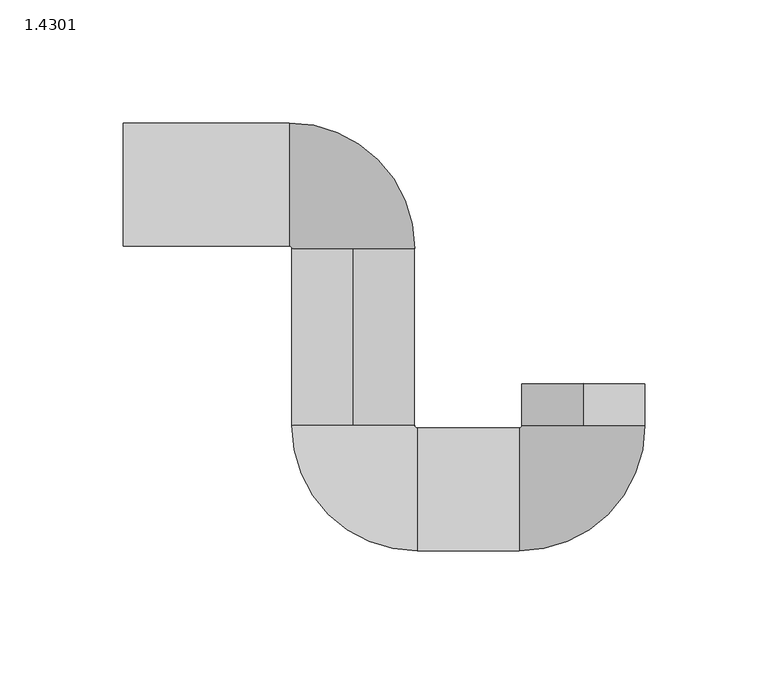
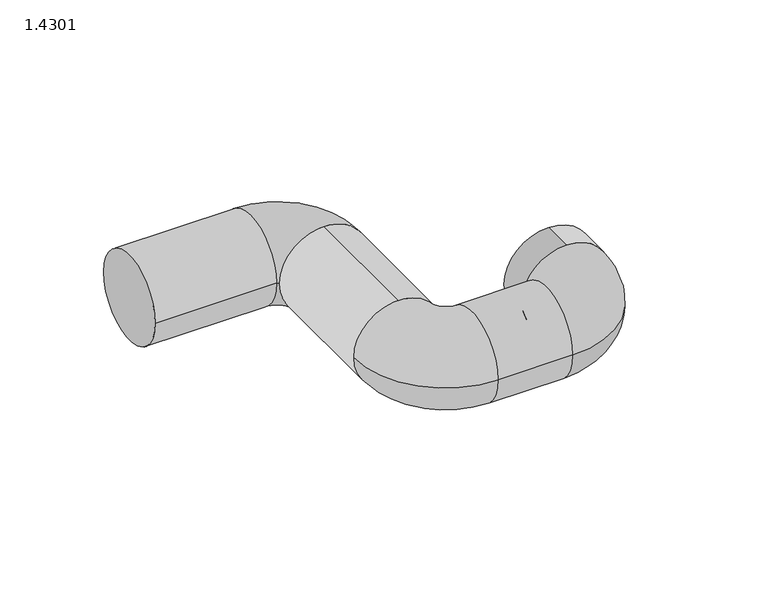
"""IFC4 building model written with IfcOpenShell, lengths in millimetres: pipe fitting geometry, PIF_ST_UN_ACO pipe p-trap_ACO : 1.4301."""

from ifc_helpers import new_model, si_unit, point, frame, origin, place, context, project, spatial, circle_curve, ellipse_curve, trimmed, source, transform, mapped, element, save
from ifc_brep_helpers import plane_surface, cylinder_surface, revolved_surface, advanced_brep


def pipe_fitting_1_4301_12527d9e(model_context):
    return source(origin(), model_context, "Body", "AdvancedBrep", [
        advanced_brep(
        [(-118.5, -98.0, 0.0), (-67.5, -149.0, 0.0), (-67.5, -99.0, 0.0), (-68.5, -98.0, 0.0), (-93.5, -98.0, 25.0), (-93.5, -98.0, -25.0), (-26.0, -149.0, 0.0), (-26.0, -99.0, 0.0), (-187.0, -25.0, 0.0), (-187.0, 25.0, 0.0), (-119.5, 25.0, 0.0), (-119.5, -25.0, 0.0), (-68.5, -26.0, 0.0), (-118.5, -26.0, 0.0), (-93.5, -26.0, 25.0), (-93.5, -26.0, -25.0), (0.0, -81.0, -25.0), (0.0, -81.0, 25.0), (0.0, -98.0, -25.0), (-25.0, -98.0, 0.0), (0.0, -98.0, 25.0), (25.0, -98.0, 0.0)],
        [
            (0, 1, circle_curve(frame((-67.5, -98.0, 0.0), z_axis=(0.0, 0.0, 1.0), x_axis=(0.0, -1.0, 0.0)), 51.0)),
            (1, 2, circle_curve(frame((-67.5, -124.0, 0.0), z_axis=(-1.0, 0.0, 0.0), x_axis=(0.0, -1.0, 0.0)), 25.0)),
            (2, 3, circle_curve(frame((-67.5, -98.0, 0.0), z_axis=(0.0, 0.0, -1.0), x_axis=(0.0, -1.0, 0.0)), 1.0)),
            (3, 4, circle_curve(frame((-93.5, -98.0, 0.0), z_axis=(0.0, -1.0, 0.0), x_axis=(-1.0, 0.0, 0.0)), 25.0)),
            (4, 0, circle_curve(frame((-93.5, -98.0, 0.0), z_axis=(0.0, -1.0, 0.0), x_axis=(-1.0, 0.0, 0.0)), 25.0)),
            (0, 5, circle_curve(frame((-93.5, -98.0, 0.0), z_axis=(0.0, -1.0, 0.0), x_axis=(-1.0, 0.0, 0.0)), 25.0)),
            (5, 3, circle_curve(frame((-93.5, -98.0, 0.0), z_axis=(0.0, -1.0, 0.0), x_axis=(-1.0, 0.0, 0.0)), 25.0)),
            (2, 1, circle_curve(frame((-67.5, -124.0, 0.0), z_axis=(-1.0, 0.0, 0.0), x_axis=(0.0, -1.0, 0.0)), 25.0)),
            (6, 1),
            (2, 7),
            (7, 6, circle_curve(frame((-26.0, -124.0, 0.0), z_axis=(-1.0, 0.0, 0.0), x_axis=(0.0, 1.0, 0.0)), 25.0)),
            (6, 7, circle_curve(frame((-26.0, -124.0, 0.0), z_axis=(-1.0, 0.0, 0.0), x_axis=(0.0, 1.0, 0.0)), 25.0)),
            (8, 9, circle_curve(frame((-187.0, 0.0, 0.0), z_axis=(-1.0, 0.0, 0.0), x_axis=(0.0, 1.0, 0.0)), 25.0)),
            (9, 8, circle_curve(frame((-187.0, 0.0, 0.0), z_axis=(-1.0, 0.0, 0.0), x_axis=(0.0, 1.0, 0.0)), 25.0)),
            (9, 10),
            (10, 11, circle_curve(frame((-119.5, 0.0, 0.0), z_axis=(-1.0, 0.0, 0.0), x_axis=(0.0, 1.0, 0.0)), 25.0)),
            (11, 8),
            (11, 10, circle_curve(frame((-119.5, 0.0, 0.0), z_axis=(-1.0, 0.0, 0.0), x_axis=(0.0, 1.0, 0.0)), 25.0)),
            (12, 10, circle_curve(frame((-119.5, -26.0, 0.0), z_axis=(0.0, 0.0, 1.0), x_axis=(0.0, 1.0, 0.0)), 51.0)),
            (11, 13, circle_curve(frame((-119.5, -26.0, 0.0), z_axis=(0.0, 0.0, -1.0), x_axis=(0.0, 1.0, 0.0)), 1.0)),
            (13, 14, circle_curve(frame((-93.5, -26.0, 0.0), z_axis=(0.0, 1.0, 0.0), x_axis=(1.0, 0.0, 0.0)), 25.0)),
            (14, 12, circle_curve(frame((-93.5, -26.0, 0.0), z_axis=(0.0, 1.0, 0.0), x_axis=(1.0, 0.0, 0.0)), 25.0)),
            (12, 15, circle_curve(frame((-93.5, -26.0, 0.0), z_axis=(0.0, 1.0, 0.0), x_axis=(1.0, 0.0, 0.0)), 25.0)),
            (15, 13, circle_curve(frame((-93.5, -26.0, 0.0), z_axis=(0.0, 1.0, 0.0), x_axis=(1.0, 0.0, 0.0)), 25.0)),
            (5, 15),
            (14, 4),
            (16, 17, circle_curve(frame((0.0, -81.0, 0.0), z_axis=(0.0, 1.0, 0.0), x_axis=(0.0, 0.0, 1.0)), 25.0)),
            (17, 16, circle_curve(frame((0.0, -81.0, 0.0), z_axis=(0.0, 1.0, 0.0), x_axis=(0.0, 0.0, 1.0)), 25.0)),
            (16, 18),
            (18, 19, circle_curve(frame((0.0, -98.0, 0.0), z_axis=(0.0, 1.0, 0.0), x_axis=(0.0, 0.0, 1.0)), 25.0)),
            (19, 20, circle_curve(frame((0.0, -98.0, 0.0), z_axis=(0.0, 1.0, 0.0), x_axis=(0.0, 0.0, 1.0)), 25.0)),
            (20, 17),
            (20, 21, circle_curve(frame((0.0, -98.0, 0.0), z_axis=(0.0, 1.0, 0.0), x_axis=(0.0, 0.0, 1.0)), 25.0)),
            (21, 18, circle_curve(frame((0.0, -98.0, 0.0), z_axis=(0.0, 1.0, 0.0), x_axis=(0.0, 0.0, 1.0)), 25.0)),
            (19, 7, circle_curve(frame((-26.0, -98.0, 0.0), z_axis=(0.0, 0.0, -1.0), x_axis=(0.0, -1.0, 0.0)), 1.0)),
            (6, 21, circle_curve(frame((-26.0, -98.0, 0.0), z_axis=(0.0, 0.0, 1.0), x_axis=(0.0, -1.0, 0.0)), 51.0)),
        ],
        [
            revolved_surface(trimmed(ellipse_curve(frame((-67.5, -124.0, 0.0), z_axis=(1.0, 0.0, 0.0), x_axis=(0.0, -1.0, 0.0)), 25.0, 25.0), [point((-67.5, -99.0, 0.0))], [point((-67.5, -149.0, 0.0))], True, "CARTESIAN"), (-67.5, -98.0, 0.0), (0.0, 0.0, -1.0)),
            revolved_surface(trimmed(ellipse_curve(frame((-67.5, -124.0, 0.0), z_axis=(1.0, 0.0, 0.0), x_axis=(0.0, -1.0, 0.0)), 25.0, 25.0), [point((-67.5, -149.0, 0.0))], [point((-67.5, -99.0, 0.0))], True, "CARTESIAN"), (-67.5, -98.0, 0.0), (0.0, 0.0, -1.0)),
            cylinder_surface(frame((-67.5, -124.0, 0.0), z_axis=(1.0, 0.0, 0.0), x_axis=(0.0, 1.0, 0.0)), 25.0),
            plane_surface(frame((-187.0, 25.0, 0.0), z_axis=(-1.0, 0.0, 0.0), x_axis=(0.0, 0.0, -1.0))),
            cylinder_surface(frame((-187.0, 0.0, 0.0), z_axis=(1.0, 0.0, 0.0), x_axis=(0.0, 1.0, 0.0)), 25.0),
            revolved_surface(trimmed(ellipse_curve(frame((-119.5, 0.0, 0.0), z_axis=(-1.0, 0.0, 0.0), x_axis=(0.0, 1.0, 0.0)), 25.0, 25.0), [point((-119.5, -25.0, 0.0))], [point((-119.5, 25.0, 0.0))], True, "CARTESIAN"), (-119.5, -26.0, 0.0), (0.0, 0.0, -1.0)),
            revolved_surface(trimmed(ellipse_curve(frame((-119.5, 0.0, 0.0), z_axis=(-1.0, 0.0, 0.0), x_axis=(0.0, 1.0, 0.0)), 25.0, 25.0), [point((-119.5, 25.0, 0.0))], [point((-119.5, -25.0, 0.0))], True, "CARTESIAN"), (-119.5, -26.0, 0.0), (0.0, 0.0, -1.0)),
            cylinder_surface(frame((-93.5, -26.0, 0.0), z_axis=(0.0, -1.0, 0.0), x_axis=(0.0, 0.0, 1.0)), 25.0),
            plane_surface(frame((0.0, -81.0, 25.0), z_axis=(0.0, 1.0, 0.0), x_axis=(1.0, 0.0, 0.0))),
            cylinder_surface(frame((0.0, -98.0, 0.0), z_axis=(0.0, 1.0, 0.0), x_axis=(0.0, 0.0, 1.0)), 25.0),
            revolved_surface(trimmed(ellipse_curve(frame((-26.0, -124.0, 0.0), z_axis=(-1.0, 0.0, 0.0), x_axis=(0.0, 1.0, 0.0)), 25.0, 25.0), [point((-26.0, -149.0, 0.0))], [point((-26.0, -99.0, 0.0))], True, "CARTESIAN"), (-26.0, -98.0, 0.0), (0.0, 0.0, 1.0)),
            revolved_surface(trimmed(ellipse_curve(frame((-26.0, -124.0, 0.0), z_axis=(-1.0, 0.0, 0.0), x_axis=(0.0, 1.0, 0.0)), 25.0, 25.0), [point((-26.0, -99.0, 0.0))], [point((-26.0, -149.0, 0.0))], True, "CARTESIAN"), (-26.0, -98.0, 0.0), (0.0, 0.0, 1.0)),
        ],
        [
            (0, [[1, 2, 3, 4, 5]]),
            (1, [[-1, 6, 7, -3, 8]]),
            (2, [[9, -8, 10, 11]]),
            (2, [[-9, 12, -10, -2]]),
            (3, [[13, 14]]),
            (4, [[-14, 15, 16, 17]]),
            (4, [[-13, -17, 18, -15]]),
            (5, [[19, -18, 20, 21, 22]]),
            (6, [[-19, 23, 24, -20, -16]]),
            (7, [[25, -23, -22, 26, -4, -7]]),
            (7, [[-25, -6, -5, -26, -21, -24]]),
            (8, [[27, 28]]),
            (9, [[-27, 29, 30, 31, 32]]),
            (9, [[-28, -32, 33, 34, -29]]),
            (10, [[35, -12, 36, -33, -31]]),
            (11, [[-35, -30, -34, -36, -11]]),
        ],
    ),
    ])


if __name__ == "__main__":
    model = new_model("IFC4")
    model_context = context("Model", 3, world=origin())
    ifc_project = project(units=[si_unit("LENGTHUNIT", "METRE", prefix="MILLI")], contexts=[model_context])
    site = spatial("IfcSite", under=ifc_project)
    building = spatial("IfcBuilding", under=site)
    placement = place(None, origin())
    pipe_fitting_1_4301_shape = pipe_fitting_1_4301_12527d9e(model_context)
    element("IfcPipeFitting", 1, ObjectType="PIF_ST_UN_ACO pipe p-trap_ACO : 1.4301", at=placement, inside=building, context=model_context, shape_type="MappedRepresentation", body=[
        mapped(pipe_fitting_1_4301_shape, transform((0.0, 0.0, 0.0), x_axis=(1.0, 0.0, 0.0), y_axis=(0.0, 1.0, 0.0), z_axis=(0.0, 0.0, 1.0))),
    ])
    save(model, "model.ifc")
